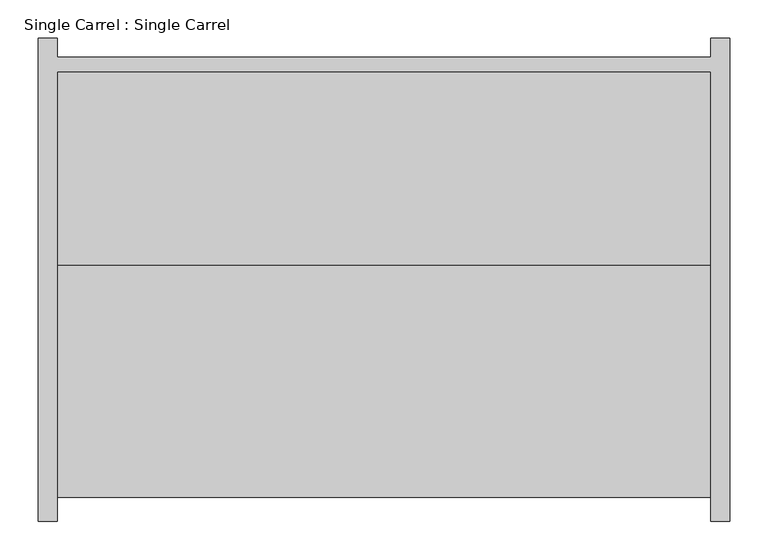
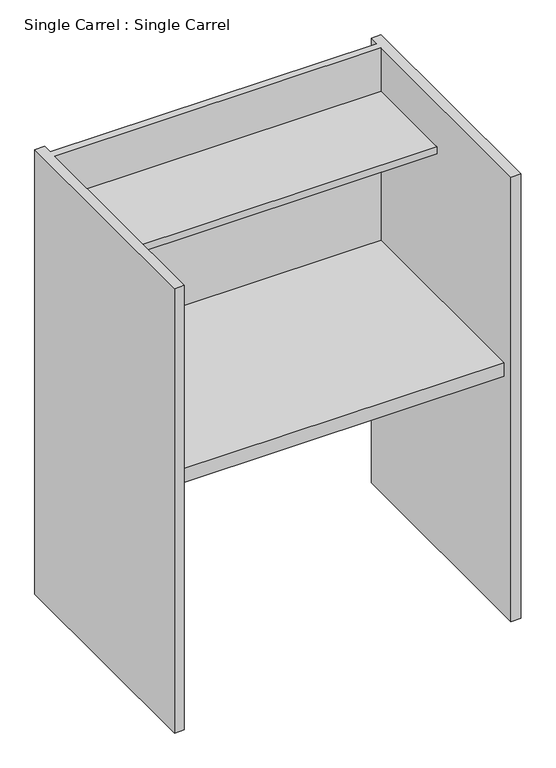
"""IFC4 building model written with IfcOpenShell, lengths in millimetres: proxy geometry, Single Carrel : Single Carrel."""

import ifcopenshell
import ifcopenshell.guid

model = None  # the IFC model being written
_history = None  # IfcOwnerHistory: only IFC2X3 demands one
_inside = {}  # id of a spatial element -> (the spatial element, [elements in it])
_under = {}  # id of a project, library or spatial element -> (it, [spatial elements below it])
_declared = {}  # id of a project -> (the project, [libraries it declares])
_typed = {}  # id of a type object -> (the type object, [elements of that type])
_made_of = {}  # id of a material, layer set ... -> (it, [elements and type objects made of it])


def new_model(schema):
    """Start an empty IFC model of exactly this schema.

    Asked for "IFC4X3", IfcOpenShell would pick the latest addendum, in which some entities
    have other attributes; the version numbers below select the first issue.
    IFC2X3 requires an IfcOwnerHistory on every rooted entity: one is made here for all.
    """
    global model, _history
    if schema == "IFC4X3":
        model = ifcopenshell.file(schema_version=(4, 3, 0, 0))
    else:
        model = ifcopenshell.file(schema=schema)
    _inside.clear()
    _under.clear()
    _declared.clear()
    _typed.clear()
    _made_of.clear()
    _history = None
    if model.schema == "IFC2X3":
        org = make("IfcOrganization", Name="unknown")
        user = make(
            "IfcPersonAndOrganization",
            ThePerson=make("IfcPerson", FamilyName="unknown"),
            TheOrganization=org,
        )
        app = make(
            "IfcApplication",
            ApplicationDeveloper=org,
            Version="unknown",
            ApplicationFullName="unknown",
            ApplicationIdentifier="unknown",
        )
        _history = make(
            "IfcOwnerHistory",
            OwningUser=user,
            OwningApplication=app,
            ChangeAction="ADDED",
            CreationDate=0,
        )
    return model


def make(cls, **values):
    """One entity of the class cls with the attributes given. An attribute that is None is left unset."""
    return model.create_entity(
        cls, **{name: value for name, value in values.items() if value is not None}
    )


def rooted(cls, **values):
    """An entity with a GlobalId (a new one), such as an element, a storey or a relation."""
    return make(cls, GlobalId=ifcopenshell.guid.new(), OwnerHistory=_history, **values)


def si_unit(unit_type, name, prefix=None):
    """IfcSIUnit, for example si_unit("LENGTHUNIT", "METRE", prefix="MILLI")."""
    return make("IfcSIUnit", UnitType=unit_type, Prefix=prefix, Name=name)


def assignment(units):
    """IfcUnitAssignment: the units of a project."""
    return None if units is None else make("IfcUnitAssignment", Units=units)


def point(xyz):
    """IfcCartesianPoint."""
    return None if xyz is None else make("IfcCartesianPoint", Coordinates=xyz)


def direction(xyz):
    """IfcDirection."""
    return None if xyz is None else make("IfcDirection", DirectionRatios=xyz)


def frame(location, z_axis=None, x_axis=None):
    """IfcAxis2Placement3D, a coordinate frame: its origin and axes. An axis left out is left unset."""
    return make(
        "IfcAxis2Placement3D",
        Location=point(location),
        Axis=direction(z_axis),
        RefDirection=direction(x_axis),
    )


def origin():
    """The frame at (0, 0, 0) with its axes left unset."""
    return frame((0.0, 0.0, 0.0))


def place(relative_to, where):
    """IfcLocalPlacement: puts the frame where relative to a parent placement (None: the world)."""
    return make(
        "IfcLocalPlacement", PlacementRelTo=relative_to, RelativePlacement=where
    )


def context(
    kind, dimensions, precision=None, world=None, true_north=None, identifier=None
):
    """IfcGeometricRepresentationContext, for example the 3D "Model" context."""
    return make(
        "IfcGeometricRepresentationContext",
        ContextIdentifier=identifier,
        ContextType=kind,
        CoordinateSpaceDimension=dimensions,
        Precision=precision,
        WorldCoordinateSystem=world,
        TrueNorth=true_north,
    )


def project(units=None, contexts=None):
    """IfcProject with its units and contexts."""
    return rooted(
        "IfcProject",
        Name="project",
        RepresentationContexts=contexts,
        UnitsInContext=assignment(units),
    )


def spatial(cls, under=None, at=None, **own):
    """A site, building, storey or space (cls), placed at a placement, below another one or the project."""
    s = rooted(cls, ObjectPlacement=at, **own)
    if under is not None:
        _under.setdefault(under.id(), (under, []))[1].append(s)
    return s


def polyline(points):
    """IfcPolyline through the points."""
    return make("IfcPolyline", Points=[point(p) for p in points])


def outline(outer, holes=None, kind="AREA"):
    """IfcArbitraryClosedProfileDef: a profile drawn as a closed curve; with holes, ...WithVoids."""
    if holes is None:
        return make("IfcArbitraryClosedProfileDef", ProfileType=kind, OuterCurve=outer)
    return make(
        "IfcArbitraryProfileDefWithVoids",
        ProfileType=kind,
        OuterCurve=outer,
        InnerCurves=holes,
    )


def extrude(swept, where, along, depth):
    """IfcExtrudedAreaSolid: the profile swept, set in the frame where, extruded along a direction by depth."""
    return make(
        "IfcExtrudedAreaSolid",
        SweptArea=swept,
        Position=where,
        ExtrudedDirection=direction(along),
        Depth=depth,
    )


def faces_of(points, faces, orient=None, outer=None):
    """IfcFace entities. A face is a list of loops; a loop is a list of indices into points, from 0.

    orient and outer hold one flag for each loop. By default every Orientation is true, the
    first loop of a face is its IfcFaceOuterBound and the others are IfcFaceBound.
    """
    made = []
    for i, loops in enumerate(faces):
        bounds = []
        for j, loop in enumerate(loops):
            is_outer = j == 0 if outer is None else outer[i][j]
            bounds.append(
                make(
                    "IfcFaceOuterBound" if is_outer else "IfcFaceBound",
                    Bound=make("IfcPolyLoop", Polygon=[points[k] for k in loop]),
                    Orientation=True if orient is None else orient[i][j],
                )
            )
        made.append(make("IfcFace", Bounds=bounds))
    return made


def faceted_brep(points, faces, orient=None, outer=None, voids=None):
    """IfcFacetedBrep: a solid bounded by flat faces; with voids (closed shells), ...WithVoids."""
    shared = [point(p) for p in points]
    hull = make("IfcClosedShell", CfsFaces=faces_of(shared, faces, orient, outer))
    if voids is None:
        return make("IfcFacetedBrep", Outer=hull)
    return make(
        "IfcFacetedBrepWithVoids",
        Outer=hull,
        Voids=[
            make(cls, CfsFaces=faces_of(shared, fs, o, b)) for cls, fs, o, b in voids
        ],
    )


def shape(context_of_items, identifier, shape_type, items):
    """IfcShapeRepresentation: the items that make up one representation, for example the "Body"."""
    return make(
        "IfcShapeRepresentation",
        ContextOfItems=context_of_items,
        RepresentationIdentifier=identifier,
        RepresentationType=shape_type,
        Items=items,
    )


def source(mapping_origin, context_of_items, identifier, shape_type, items):
    """IfcRepresentationMap: a shape defined once, which mapped items show again and again."""
    return make(
        "IfcRepresentationMap",
        MappingOrigin=mapping_origin,
        MappedRepresentation=shape(context_of_items, identifier, shape_type, items),
    )


def transform(
    local_origin,
    x_axis=None,
    y_axis=None,
    z_axis=None,
    scale=None,
    scale2=None,
    scale3=None,
    uniform=True,
):
    """IfcCartesianTransformationOperator3D, or its non-uniform kind. x_axis, y_axis, z_axis: its Axis1, 2, 3."""
    if uniform:
        return make(
            "IfcCartesianTransformationOperator3D",
            Axis1=direction(x_axis),
            Axis2=direction(y_axis),
            LocalOrigin=point(local_origin),
            Scale=scale,
            Axis3=direction(z_axis),
        )
    return make(
        "IfcCartesianTransformationOperator3DnonUniform",
        Axis1=direction(x_axis),
        Axis2=direction(y_axis),
        LocalOrigin=point(local_origin),
        Scale=scale,
        Axis3=direction(z_axis),
        Scale2=scale2,
        Scale3=scale3,
    )


def mapped(mapping_source, mapping_target):
    """IfcMappedItem: shows the shape of a source again, moved by a transform."""
    return make(
        "IfcMappedItem", MappingSource=mapping_source, MappingTarget=mapping_target
    )


def made_of(thing, what):
    """Note that an element or type object is made of a material, layer set ...; save() writes the relation."""
    if what is not None:
        _made_of.setdefault(what.id(), (what, []))[1].append(thing)
    return thing


def element(
    cls,
    number,
    at=None,
    inside=None,
    cuts=None,
    type_object=None,
    material=None,
    context=None,
    identifier="Body",
    shape_type=None,
    held_by="IfcProductDefinitionShape",
    body=None,
    shapes=None,
    **own,
):
    """One element of the class cls, such as IfcWall. Its Tag is "e" and its number.

    at: its placement. inside: the storey or other place that contains it. cuts: it is an
    opening in that element (IfcRelVoidsElement). A single representation is given by context,
    identifier, shape_type and body (its items); several are given by shapes. held_by: the class
    of the entity that holds the representations. save() writes the other relations.
    """
    e = rooted(cls, Tag="e%d" % number, ObjectPlacement=at, **own)
    if body is not None:
        shapes = [shape(context, identifier, shape_type, body)]
    if shapes is not None:
        e.Representation = make(held_by, Representations=shapes)
    if inside is not None:
        _inside.setdefault(inside.id(), (inside, []))[1].append(e)
    if cuts is not None:
        rooted(
            "IfcRelVoidsElement", RelatingBuildingElement=cuts, RelatedOpeningElement=e
        )
    if type_object is not None:
        _typed.setdefault(type_object.id(), (type_object, []))[1].append(e)
    return made_of(e, material)


def aggregate(whole, parts):
    """IfcRelAggregates: a whole, such as a stair, and the parts it consists of."""
    return rooted("IfcRelAggregates", RelatingObject=whole, RelatedObjects=parts)


def save(model, path):
    """Write the relations noted so far, then the file.

    IfcRelAggregates (storeys below a building ...), IfcRelContainedInSpatialStructure (elements
    in a storey), IfcRelDefinesByType, IfcRelAssociatesMaterial and IfcRelDeclares: one each for
    every whole, place, type object, material and project.
    """
    for whole, parts in _under.values():
        aggregate(whole, parts)
    for where, things in _inside.values():
        rooted(
            "IfcRelContainedInSpatialStructure",
            RelatedElements=things,
            RelatingStructure=where,
        )
    for kind, things in _typed.values():
        rooted("IfcRelDefinesByType", RelatedObjects=things, RelatingType=kind)
    for what, things in _made_of.values():
        rooted("IfcRelAssociatesMaterial", RelatedObjects=things, RelatingMaterial=what)
    for by, libraries in _declared.values():
        rooted("IfcRelDeclares", RelatingContext=by, RelatedDefinitions=libraries)
    model.write(path)


def single_carrel_single_carrel_ed4d160c(model_context):
    return source(origin(), model_context, "Body", "SolidModel", [
        extrude(outline(polyline([(428.625, -19.05), (428.625, -273.05), (-428.625, -273.05), (-428.625, -19.05), (428.625, -19.05)])), frame((0.0, 0.0, 1092.2), z_axis=(0.0, 0.0, 1.0), x_axis=(1.0, 0.0, 0.0)), (0.0, 0.0, 1.0), 19.05),
        extrude(outline(polyline([(428.625, -19.05), (428.625, -577.85), (-428.625, -577.85), (-428.625, -19.05), (428.625, -19.05)])), frame((0.0, 0.0, 660.4), z_axis=(0.0, 0.0, 1.0), x_axis=(1.0, 0.0, 0.0)), (0.0, 0.0, 1.0), 38.1),
        faceted_brep([(428.625, 0.0, 1231.9), (-428.625, 0.0, 1231.9), (-428.625, 25.4, 1231.9), (-454.025, 25.4, 1231.9), (-454.025, -609.6, 1231.9), (-428.625, -609.6, 1231.9), (-428.625, -19.05, 1231.9), (428.625, -19.05, 1231.9), (428.625, -609.6, 1231.9), (454.025, -609.6, 1231.9), (454.025, 25.4, 1231.9), (428.625, 25.4, 1231.9), (428.625, -609.6, 0.0), (428.625, 25.4, 0.0), (454.025, 25.4, 0.0), (454.025, -609.6, 0.0), (-428.625, 25.4, 0.0), (-428.625, -609.6, 0.0), (-454.025, -609.6, 0.0), (-454.025, 25.4, 0.0), (428.625, 0.0, 457.2), (-428.625, 0.0, 457.2), (-428.625, -19.05, 457.2), (428.625, -19.05, 457.2)], [[[0, 1, 2, 3, 4, 5, 6, 7, 8, 9, 10, 11]], [[12, 13, 14, 15]], [[16, 17, 18, 19]], [[1, 0, 20, 21]], [[2, 1, 21, 22, 6, 5, 17, 16]], [[3, 2, 16, 19]], [[4, 3, 19, 18]], [[5, 4, 18, 17]], [[7, 6, 22, 23]], [[8, 7, 23, 20, 0, 11, 13, 12]], [[9, 8, 12, 15]], [[10, 9, 15, 14]], [[13, 11, 10, 14]], [[22, 21, 20, 23]]]),
    ])


if __name__ == "__main__":
    model = new_model("IFC4")
    model_context = context("Model", 3, world=origin())
    ifc_project = project(units=[si_unit("LENGTHUNIT", "METRE", prefix="MILLI")], contexts=[model_context])
    site = spatial("IfcSite", under=ifc_project)
    building = spatial("IfcBuilding", under=site)
    placement = place(None, origin())
    single_carrel_single_carrel_shape = single_carrel_single_carrel_ed4d160c(model_context)
    element("IfcBuildingElementProxy", 1, Name="Single Carrel : Single Carrel", ObjectType="Single Carrel : Single Carrel", at=placement, inside=building, context=model_context, shape_type="MappedRepresentation", body=[
        mapped(single_carrel_single_carrel_shape, transform((0.0, 0.0, 0.0), x_axis=(1.0, 0.0, 0.0), y_axis=(0.0, 1.0, 0.0), z_axis=(0.0, 0.0, 1.0))),
    ])
    save(model, "model.ifc")
